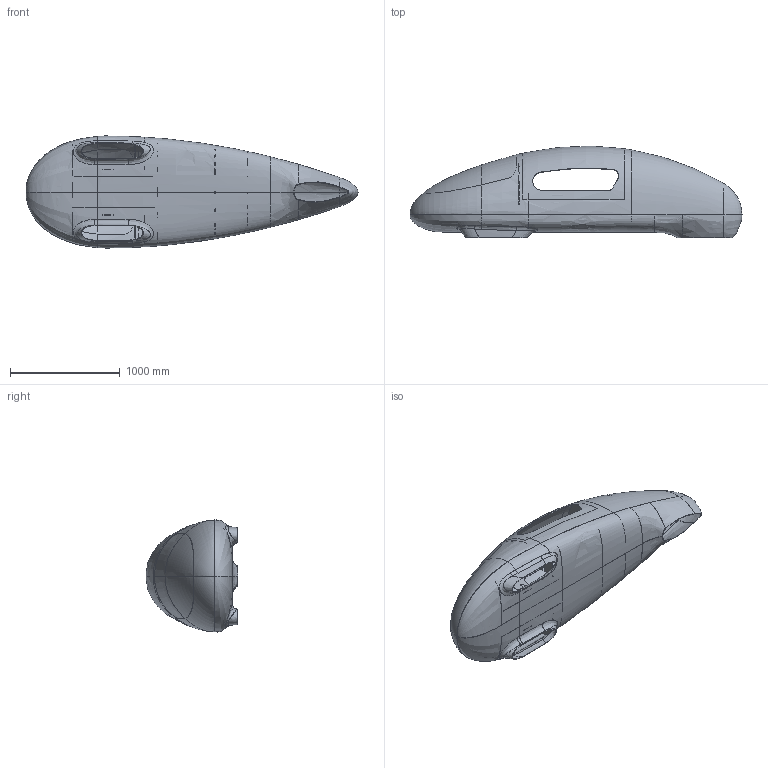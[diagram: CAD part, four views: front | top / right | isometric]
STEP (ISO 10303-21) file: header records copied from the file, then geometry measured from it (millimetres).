
FILE_DESCRIPTION (( 'STEP AP214' ), '1' );
FILE_NAME ('Shell Eco Car 2015.STEP', '2016-05-29T11:55:47', ( '' ), ( '' ), 'SwSTEP 2.0', 'SolidWorks 2016', '' );
FILE_SCHEMA (( 'AUTOMOTIVE_DESIGN' ));
Length unit declared in the file: millimetre
Products named in the file (1): Shell Eco Car 2015
Bounding box: 3019.08 x 834.77 x 1018.85 mm (x, y, z)
Volume: 22797654.3 mm3; surface area: 15602895.2 mm2
Topology: 17 solids, 17 shells, 298 faces, 793 edges, 512 vertices
Faces by surface type: bspline 150, plane 122, cylinder 26
Entity records: 144722 total; most frequent: CARTESIAN_POINT 138218, ORIENTED_EDGE 1564, EDGE_CURVE 782, DIRECTION 719, VERTEX_POINT 512, B_SPLINE_CURVE_WITH_KNOTS 414, LINE 315, VECTOR 315
